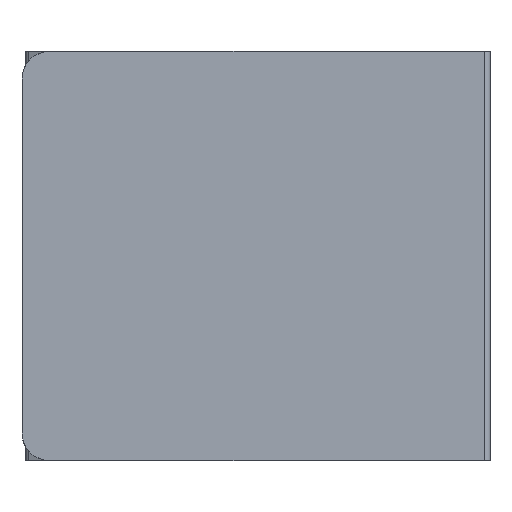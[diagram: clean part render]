
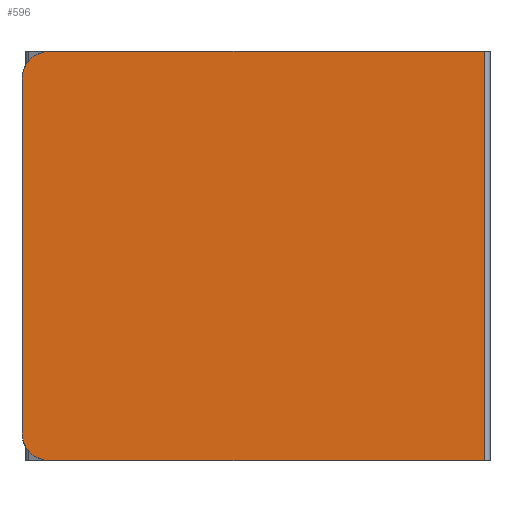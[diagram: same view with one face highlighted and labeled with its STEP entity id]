
A CAD part, front view. The second image highlights one B-rep face of the part: STEP entity #596.
In plain terms, the highlighted planar face has unit normal (0, -1, 0).
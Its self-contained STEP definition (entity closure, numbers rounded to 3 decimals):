
#35 = VERTEX_POINT ( 'NONE', #945 ) ;
#51 = CARTESIAN_POINT ( 'NONE',  ( 5., 0., 69. ) ) ;
#66 = DIRECTION ( 'NONE',  ( 0., -1., 0. ) ) ;
#102 = ORIENTED_EDGE ( 'NONE', *, *, #1609, .T. ) ;
#133 = AXIS2_PLACEMENT_3D ( 'NONE', #51, #1592, #831 ) ;
#221 = EDGE_CURVE ( 'NONE', #35, #435, #1122, .T. ) ;
#229 = CARTESIAN_POINT ( 'NONE',  ( 5., 0., 74. ) ) ;
#241 = VERTEX_POINT ( 'NONE', #658 ) ;
#265 = AXIS2_PLACEMENT_3D ( 'NONE', #1681, #66, #1916 ) ;
#266 = CARTESIAN_POINT ( 'NONE',  ( 83.611, 0., 74. ) ) ;
#367 = CARTESIAN_POINT ( 'NONE',  ( 5., 0., 0. ) ) ;
#435 = VERTEX_POINT ( 'NONE', #367 ) ;
#444 = VERTEX_POINT ( 'NONE', #229 ) ;
#540 = LINE ( 'NONE', #1471, #912 ) ;
#579 = FACE_OUTER_BOUND ( 'NONE', #1812, .T. ) ;
#596 = ADVANCED_FACE ( 'NONE', ( #579 ), #1178, .F. ) ;
#599 = DIRECTION ( 'NONE',  ( 0., 0., 1. ) ) ;
#650 = VECTOR ( 'NONE', #1852, 1000. ) ;
#658 = CARTESIAN_POINT ( 'NONE',  ( 0., 0., 69. ) ) ;
#694 = LINE ( 'NONE', #1930, #1783 ) ;
#715 = DIRECTION ( 'NONE',  ( 1., 0., 0. ) ) ;
#727 = ORIENTED_EDGE ( 'NONE', *, *, #988, .F. ) ;
#766 = ORIENTED_EDGE ( 'NONE', *, *, #221, .T. ) ;
#831 = DIRECTION ( 'NONE',  ( 0., 0., 1. ) ) ;
#860 = DIRECTION ( 'NONE',  ( 1., 0., 0. ) ) ;
#899 = LINE ( 'NONE', #1509, #979 ) ;
#912 = VECTOR ( 'NONE', #715, 1000. ) ;
#945 = CARTESIAN_POINT ( 'NONE',  ( 0., 0., 5. ) ) ;
#979 = VECTOR ( 'NONE', #599, 1000. ) ;
#988 = EDGE_CURVE ( 'NONE', #444, #1547, #694, .T. ) ;
#995 = EDGE_CURVE ( 'NONE', #444, #241, #1621, .T. ) ;
#1055 = LINE ( 'NONE', #1226, #650 ) ;
#1109 = CARTESIAN_POINT ( 'NONE',  ( 83.611, 0., 0. ) ) ;
#1122 = CIRCLE ( 'NONE', #265, 5. ) ;
#1153 = DIRECTION ( 'NONE',  ( 0., 1., 0. ) ) ;
#1178 = PLANE ( 'NONE',  #1779 ) ;
#1187 = EDGE_CURVE ( 'NONE', #241, #35, #1055, .T. ) ;
#1215 = ORIENTED_EDGE ( 'NONE', *, *, #1490, .T. ) ;
#1226 = CARTESIAN_POINT ( 'NONE',  ( 0., 0., 74. ) ) ;
#1471 = CARTESIAN_POINT ( 'NONE',  ( 0., 0., 0. ) ) ;
#1474 = ORIENTED_EDGE ( 'NONE', *, *, #1187, .T. ) ;
#1490 = EDGE_CURVE ( 'NONE', #435, #1782, #540, .T. ) ;
#1496 = DIRECTION ( 'NONE',  ( 0., 0., 1. ) ) ;
#1509 = CARTESIAN_POINT ( 'NONE',  ( 83.611, 0., 74. ) ) ;
#1547 = VERTEX_POINT ( 'NONE', #266 ) ;
#1592 = DIRECTION ( 'NONE',  ( 0., -1., 0. ) ) ;
#1609 = EDGE_CURVE ( 'NONE', #1782, #1547, #899, .T. ) ;
#1621 = CIRCLE ( 'NONE', #133, 5. ) ;
#1681 = CARTESIAN_POINT ( 'NONE',  ( 5., 0., 5. ) ) ;
#1709 = ORIENTED_EDGE ( 'NONE', *, *, #995, .T. ) ;
#1779 = AXIS2_PLACEMENT_3D ( 'NONE', #1969, #1153, #1496 ) ;
#1782 = VERTEX_POINT ( 'NONE', #1109 ) ;
#1783 = VECTOR ( 'NONE', #860, 1000. ) ;
#1812 = EDGE_LOOP ( 'NONE', ( #1474, #766, #1215, #102, #727, #1709 ) ) ;
#1852 = DIRECTION ( 'NONE',  ( 0., 0., -1. ) ) ;
#1916 = DIRECTION ( 'NONE',  ( 0., 0., 1. ) ) ;
#1930 = CARTESIAN_POINT ( 'NONE',  ( 0., 0., 74. ) ) ;
#1969 = CARTESIAN_POINT ( 'NONE',  ( 0., 0., 74. ) ) ;
